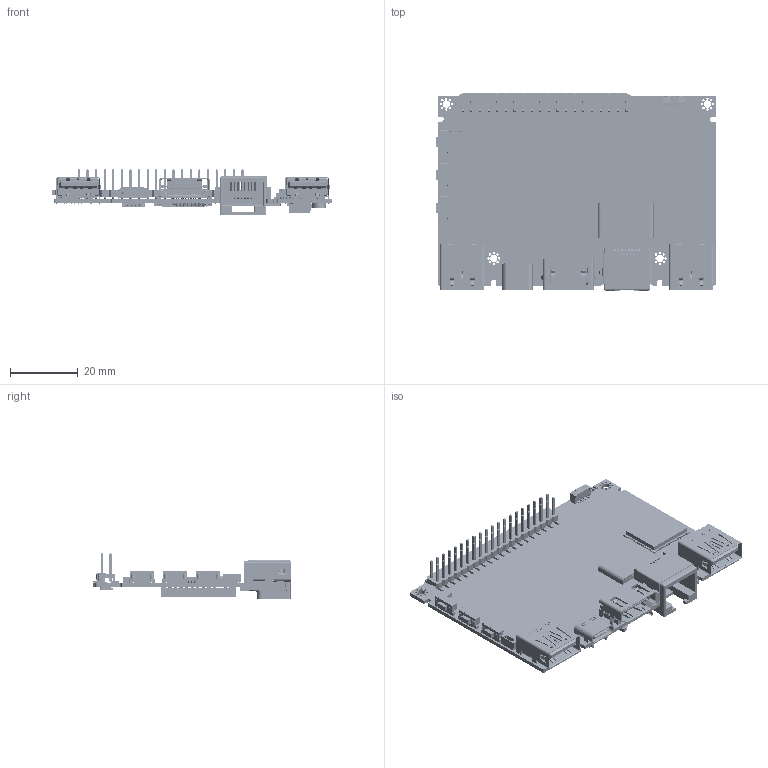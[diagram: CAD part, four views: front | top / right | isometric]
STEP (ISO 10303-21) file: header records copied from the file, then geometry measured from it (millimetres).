
FILE_DESCRIPTION (( 'STEP AP214' ), '1' );
FILE_NAME ('vim3_detailed (27-03-2020).STEP', '2020-03-27T08:52:45', ( '' ), ( '' ), 'SwSTEP 2.0', 'SolidWorks 2018', '' );
FILE_SCHEMA (( 'AUTOMOTIVE_DESIGN' ));
Length unit declared in the file: millimetre
Products named in the file (19): c-1-2199119-5-c-3d; 5033981892; usb-c; vim3_detailed (27-03-2020); 781710004; ir; hdmi; ethernet; FH34SRJ-10S-0.5SH; nub; IT-1188E; wi-fi; SM02B-SURS-TF; VIM3_Detailed; FH34SRJ-30S-0.5SH; usb-a; h5120nl; gpio; BM04B-SURS-TF
Assembly tree (22 placements, depth 2):
  vim3_detailed (27-03-2020)
    VIM3_Detailed
    usb-a  x2
    usb-c
    ethernet
    FH34SRJ-30S-0.5SH  x2
    FH34SRJ-10S-0.5SH
    5033981892
    c-1-2199119-5-c-3d
    781710004
    IT-1188E  x3
    BM04B-SURS-TF
    SM02B-SURS-TF
    nub
    gpio
    ir
    h5120nl
    wi-fi
    hdmi
Bounding box: 82.49 x 58.11 x 13.34 mm (x, y, z)
Volume: 9392.1 mm3; surface area: 23528.3 mm2
Topology: 166 solids, 166 shells, 11472 faces, 31477 edges, 20421 vertices
Faces by surface type: plane 6019, bspline 3692, cylinder 1684, cone 34, torus 27, sphere 16
Entity records: 303121 total; most frequent: CARTESIAN_POINT 75158, ORIENTED_EDGE 50340, DIRECTION 34402, EDGE_CURVE 25170, VERTEX_POINT 16263, LINE 15900, VECTOR 15900, EDGE_LOOP 9787
